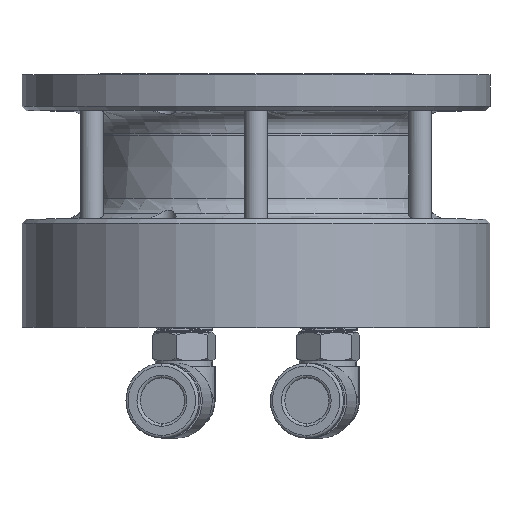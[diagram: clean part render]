
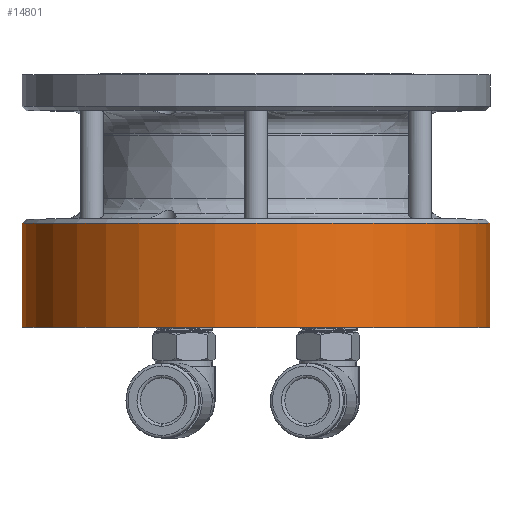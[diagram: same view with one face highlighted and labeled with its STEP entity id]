
A CAD part, top view. The second image highlights one B-rep face of the part: STEP entity #14801.
In plain terms, the highlighted cylindrical face has radius 41.148 mm (diameter 82.296 mm), a partial arc.
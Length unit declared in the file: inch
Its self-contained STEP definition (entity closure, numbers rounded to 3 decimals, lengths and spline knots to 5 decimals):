
#269 = CARTESIAN_POINT ( 'NONE',  ( -1.62, -0.3, 0. ) ) ;
#451 = ORIENTED_EDGE ( 'NONE', *, *, #9745, .F. ) ;
#974 = LINE ( 'NONE', #9296, #9159 ) ;
#1722 = FACE_OUTER_BOUND ( 'NONE', #8787, .T. ) ;
#2020 = DIRECTION ( 'NONE',  ( 0., 1., 0. ) ) ;
#2594 = ORIENTED_EDGE ( 'NONE', *, *, #9957, .T. ) ;
#2714 = AXIS2_PLACEMENT_3D ( 'NONE', #9150, #2020, #11683 ) ;
#3302 = VERTEX_POINT ( 'NONE', #14187 ) ;
#3924 = VERTEX_POINT ( 'NONE', #7119 ) ;
#4488 = CIRCLE ( 'NONE', #11155, 1.62 ) ;
#4536 = CARTESIAN_POINT ( 'NONE',  ( 0., 1.39, 0. ) ) ;
#6309 = ORIENTED_EDGE ( 'NONE', *, *, #11432, .F. ) ;
#6356 = VERTEX_POINT ( 'NONE', #269 ) ;
#6379 = VECTOR ( 'NONE', #10091, 39.37008 ) ;
#7119 = CARTESIAN_POINT ( 'NONE',  ( 1.62, -0.3, 0. ) ) ;
#7285 = AXIS2_PLACEMENT_3D ( 'NONE', #4536, #15551, #10992 ) ;
#7923 = CIRCLE ( 'NONE', #2714, 1.62 ) ;
#8747 = CARTESIAN_POINT ( 'NONE',  ( 1.62, 0.42, 0. ) ) ;
#8787 = EDGE_LOOP ( 'NONE', ( #6309, #2594, #13979, #451 ) ) ;
#9150 = CARTESIAN_POINT ( 'NONE',  ( 0., -0.3, 0. ) ) ;
#9159 = VECTOR ( 'NONE', #15331, 39.37008 ) ;
#9219 = VERTEX_POINT ( 'NONE', #8747 ) ;
#9296 = CARTESIAN_POINT ( 'NONE',  ( 1.62, 1.39, 0. ) ) ;
#9745 = EDGE_CURVE ( 'Defeatured_0_11+Defeatured_0_12+Defeatured_0_12+Defeatured_0_12', #3302, #9219, #4488, .T. ) ;
#9957 = EDGE_CURVE ( 'Defeatured_0_12+Defeatured_0_13+Defeatured_0_13+Defeatured_0_13', #6356, #3924, #7923, .T. ) ;
#10091 = DIRECTION ( 'NONE',  ( 0., 1., 0. ) ) ;
#10992 = DIRECTION ( 'NONE',  ( 1., 0., 0. ) ) ;
#11155 = AXIS2_PLACEMENT_3D ( 'NONE', #14196, #13116, #13020 ) ;
#11432 = EDGE_CURVE ( 'NONE', #6356, #3302, #12814, .T. ) ;
#11683 = DIRECTION ( 'NONE',  ( 1., 0., 0. ) ) ;
#12158 = CYLINDRICAL_SURFACE ( 'NONE', #7285, 1.62 ) ;
#12576 = CARTESIAN_POINT ( 'NONE',  ( -1.62, 1.39, 0. ) ) ;
#12814 = LINE ( 'NONE', #12576, #6379 ) ;
#13020 = DIRECTION ( 'NONE',  ( 1., 0., 0. ) ) ;
#13116 = DIRECTION ( 'NONE',  ( 0., 1., 0. ) ) ;
#13979 = ORIENTED_EDGE ( 'NONE', *, *, #15212, .T. ) ;
#14187 = CARTESIAN_POINT ( 'NONE',  ( -1.62, 0.42, 0. ) ) ;
#14196 = CARTESIAN_POINT ( 'NONE',  ( 0., 0.42, 0. ) ) ;
#14801 = ADVANCED_FACE ( 'Defeatured_0_12', ( #1722 ), #12158, .T. ) ;
#15212 = EDGE_CURVE ( 'NONE', #3924, #9219, #974, .T. ) ;
#15331 = DIRECTION ( 'NONE',  ( 0., 1., 0. ) ) ;
#15551 = DIRECTION ( 'NONE',  ( 0., 1., 0. ) ) ;
